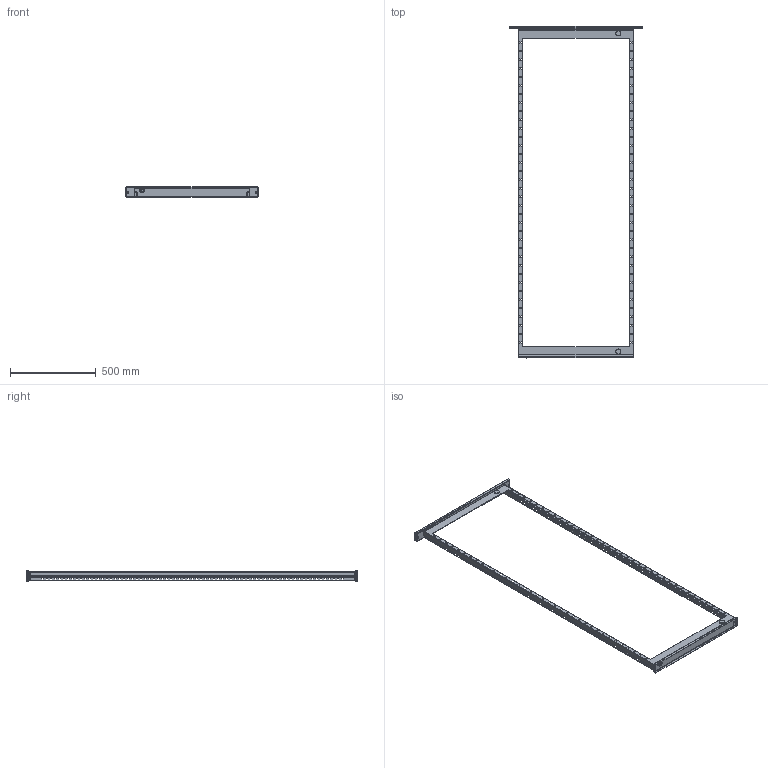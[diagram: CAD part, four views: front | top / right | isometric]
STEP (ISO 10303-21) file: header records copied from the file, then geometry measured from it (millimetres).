
FILE_DESCRIPTION (( 'STEP AP203' ), '1' );
FILE_NAME ('MC 200.80 R Ðàìà ìîäóëüíàÿ ïîâîðîòíàÿ.STEP', '2013-01-10T15:12:49', ( 'System' ), ( '' ), 'SwSTEP 2.0', 'SolidWorks 2012', '' );
FILE_SCHEMA (( 'CONFIG_CONTROL_DESIGN' ));
Length unit declared in the file: millimetre
Products named in the file (4): MC 60 R 00.001 Áàëêà íèæíÿÿ_MC 80 R; MC 200.80 R Ðàìà ìîäóëüíàÿ ïîâîðîòíàÿ; MC 60 R 00.01 Áàëêà âåðõíÿÿ_MC 80 R; MC 180.60 R Ðàìà ìîäóëüíàÿ_MC 200.80 R
Assembly tree (3 placements, depth 2):
  MC 200.80 R Ðàìà ìîäóëüíàÿ ïîâîðîòíàÿ
    MC 180.60 R Ðàìà ìîäóëüíàÿ_MC 200.80 R
    MC 60 R 00.01 Áàëêà âåðõíÿÿ_MC 80 R
    MC 60 R 00.001 Áàëêà íèæíÿÿ_MC 80 R
Bounding box: 771.5 x 1937.85 x 60 mm (x, y, z)
Volume: 1143869.9 mm3; surface area: 1155907.3 mm2
Topology: 3 solids, 3 shells, 1048 faces, 3014 edges, 1948 vertices
Faces by surface type: plane 907, cylinder 97, sphere 32, torus 8, cone 4
Entity records: 34706 total; most frequent: CARTESIAN_POINT 6016, ORIENTED_EDGE 5964, DIRECTION 5286, EDGE_CURVE 2982, VECTOR 2778, LINE 2778, VERTEX_POINT 1948, EDGE_LOOP 1498
